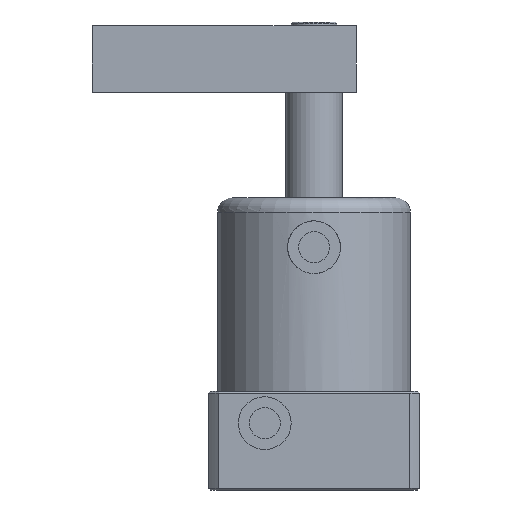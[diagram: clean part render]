
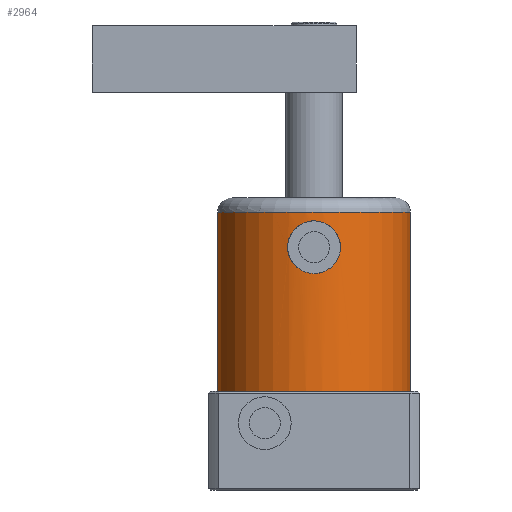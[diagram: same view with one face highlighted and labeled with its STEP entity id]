
A CAD part, front view. The second image highlights one B-rep face of the part: STEP entity #2964.
In plain terms, the highlighted cylindrical face has radius 27.5 mm (diameter 55 mm), a partial arc.
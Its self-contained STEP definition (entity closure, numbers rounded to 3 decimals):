
#54=B_SPLINE_CURVE_WITH_KNOTS('',3,(#3997,#3998,#3999,#4000,#4001,#4002,
#4003,#4004,#4005,#4006,#4007,#4008,#4009,#4010,#4011,#4012,#4013,#4014,
#4015),.UNSPECIFIED.,.T.,.F.,(1,1,1,1,1,1,1,1,1,1,1,1,1,1,1,1,1,1,1,1,1,
1,1),(-0.009,-0.006,-0.003,0.,
0.003,0.006,0.009,0.012,
0.015,0.018,0.021,0.024,
0.027,0.029,0.032,0.035,
0.038,0.041,0.044,0.047,
0.05,0.053,0.056),.UNSPECIFIED.);
#136=LINE('',#4192,#253);
#137=LINE('',#4193,#254);
#253=VECTOR('',#3499,1000.);
#254=VECTOR('',#3500,1000.);
#339=CYLINDRICAL_SURFACE('',#3153,27.5);
#570=ORIENTED_EDGE('',*,*,#1000,.F.);
#571=ORIENTED_EDGE('',*,*,#1059,.T.);
#572=ORIENTED_EDGE('',*,*,#1060,.T.);
#573=ORIENTED_EDGE('',*,*,#1020,.T.);
#574=ORIENTED_EDGE('',*,*,#1061,.T.);
#1000=EDGE_CURVE('',#1268,#1268,#54,.T.);
#1020=EDGE_CURVE('',#1283,#1282,#1449,.T.);
#1059=EDGE_CURVE('',#1308,#1309,#1459,.T.);
#1060=EDGE_CURVE('',#1309,#1283,#136,.F.);
#1061=EDGE_CURVE('',#1282,#1308,#137,.T.);
#1268=VERTEX_POINT('',#4016);
#1282=VERTEX_POINT('',#4077);
#1283=VERTEX_POINT('',#4079);
#1308=VERTEX_POINT('',#4190);
#1309=VERTEX_POINT('',#4191);
#1449=CIRCLE('',#3130,27.5);
#1459=CIRCLE('',#3154,27.5);
#1578=EDGE_LOOP('',(#570));
#1579=EDGE_LOOP('',(#571,#572,#573,#574));
#1778=FACE_BOUND('',#1578,.T.);
#1779=FACE_BOUND('',#1579,.T.);
#2964=ADVANCED_FACE('',(#1778,#1779),#339,.T.);
#3130=AXIS2_PLACEMENT_3D('',#4078,#3431,#3432);
#3153=AXIS2_PLACEMENT_3D('',#4188,#3495,#3496);
#3154=AXIS2_PLACEMENT_3D('',#4189,#3497,#3498);
#3431=DIRECTION('',(0.,0.,-1.));
#3432=DIRECTION('',(0.,1.,0.));
#3495=DIRECTION('',(0.,0.,-1.));
#3496=DIRECTION('',(0.,1.,0.));
#3497=DIRECTION('',(0.,0.,1.));
#3498=DIRECTION('',(0.,-1.,0.));
#3499=DIRECTION('',(0.,0.,-1.));
#3500=DIRECTION('',(0.,0.,-1.));
#3997=CARTESIAN_POINT('',(13.533,4.113,-4.601));
#3998=CARTESIAN_POINT('',(16.502,3.944,-5.199));
#3999=CARTESIAN_POINT('',(19.46,4.112,-4.603));
#4000=CARTESIAN_POINT('',(21.941,4.515,-2.938));
#4001=CARTESIAN_POINT('',(23.603,4.925,-0.459));
#4002=CARTESIAN_POINT('',(24.198,5.101,2.494));
#4003=CARTESIAN_POINT('',(23.607,4.926,5.453));
#4004=CARTESIAN_POINT('',(21.939,4.515,7.94));
#4005=CARTESIAN_POINT('',(19.457,4.112,9.604));
#4006=CARTESIAN_POINT('',(16.504,3.944,10.197));
#4007=CARTESIAN_POINT('',(13.547,4.111,9.606));
#4008=CARTESIAN_POINT('',(11.064,4.514,7.943));
#4009=CARTESIAN_POINT('',(9.397,4.925,5.462));
#4010=CARTESIAN_POINT('',(8.802,5.101,2.503));
#4011=CARTESIAN_POINT('',(9.394,4.926,-0.455));
#4012=CARTESIAN_POINT('',(11.058,4.516,-2.936));
#4013=CARTESIAN_POINT('',(13.533,4.113,-4.601));
#4014=CARTESIAN_POINT('',(16.502,3.944,-5.199));
#4015=CARTESIAN_POINT('',(19.46,4.112,-4.603));
#4016=CARTESIAN_POINT('',(16.5,4.,-5.));
#4077=CARTESIAN_POINT('',(-10.877,28.9,12.5));
#4078=CARTESIAN_POINT('',(16.5,31.5,12.5));
#4079=CARTESIAN_POINT('',(43.877,28.9,12.5));
#4188=CARTESIAN_POINT('',(16.5,31.5,16.5));
#4189=CARTESIAN_POINT('',(16.5,31.5,-38.5));
#4190=CARTESIAN_POINT('',(-10.877,28.9,-38.5));
#4191=CARTESIAN_POINT('',(43.877,28.9,-38.5));
#4192=CARTESIAN_POINT('',(43.877,28.9,16.5));
#4193=CARTESIAN_POINT('',(-10.877,28.9,16.5));
